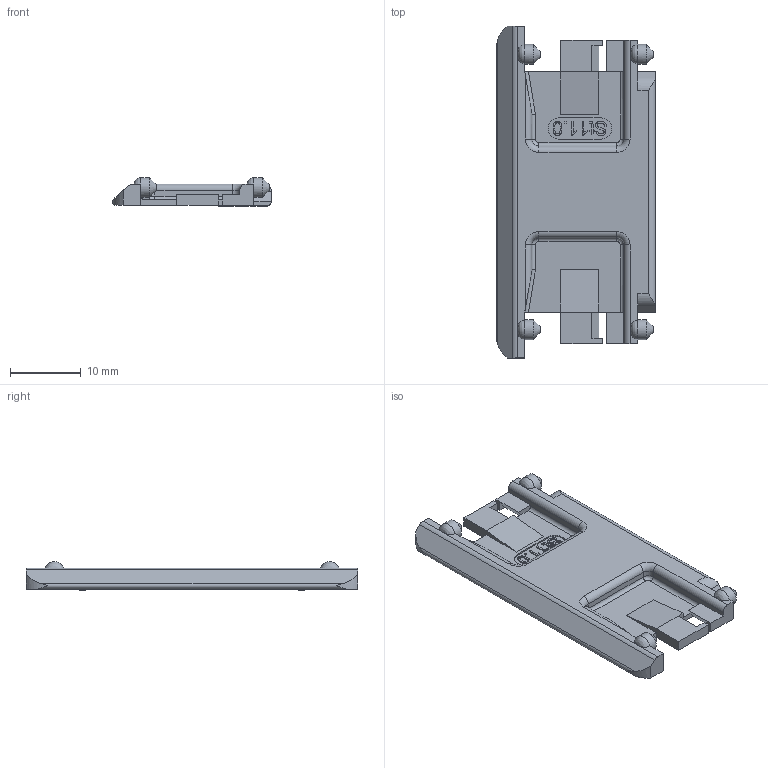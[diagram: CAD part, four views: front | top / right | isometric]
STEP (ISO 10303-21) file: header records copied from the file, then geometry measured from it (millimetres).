
FILE_DESCRIPTION((''),'2;1');
FILE_NAME('C:\Uebbing\PARAMETERKETTEN\KOLIBRI\Kol_30_060_1\Kol 30_060_0 Klappsteg.stp','2011-11-02T11:55:04',('Uebbing'),(''),'Autodesk Inventor 10','Autodesk Inventor 10','');
FILE_SCHEMA(('AUTOMOTIVE_DESIGN { 1 0 10303 214 1 1 1 1 }'));
Length unit declared in the file: millimetre
Products named in the file (1): Kol 30_060_0 Klappsteg
Bounding box: 22.5 x 47 x 4.05 mm (x, y, z)
Volume: 1885.3 mm3; surface area: 2337.6 mm2
Topology: 1 solids, 1 shells, 257 faces, 725 edges, 478 vertices
Faces by surface type: plane 120, bspline 77, cylinder 52, cone 4, torus 4
Full cylindrical faces by diameter (mm): 2.8 x4
Entity records: 9189 total; most frequent: CARTESIAN_POINT 3035, ORIENTED_EDGE 1418, DIRECTION 1031, EDGE_CURVE 709, VERTEX_POINT 470, VECTOR 437, LINE 437, AXIS2_PLACEMENT_3D 297
